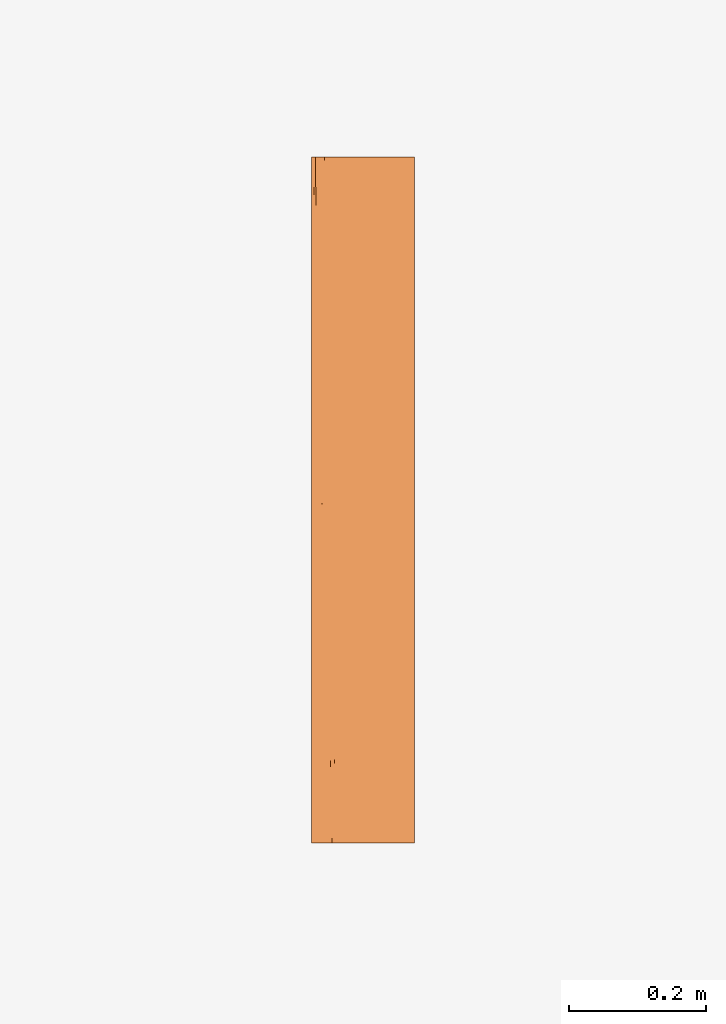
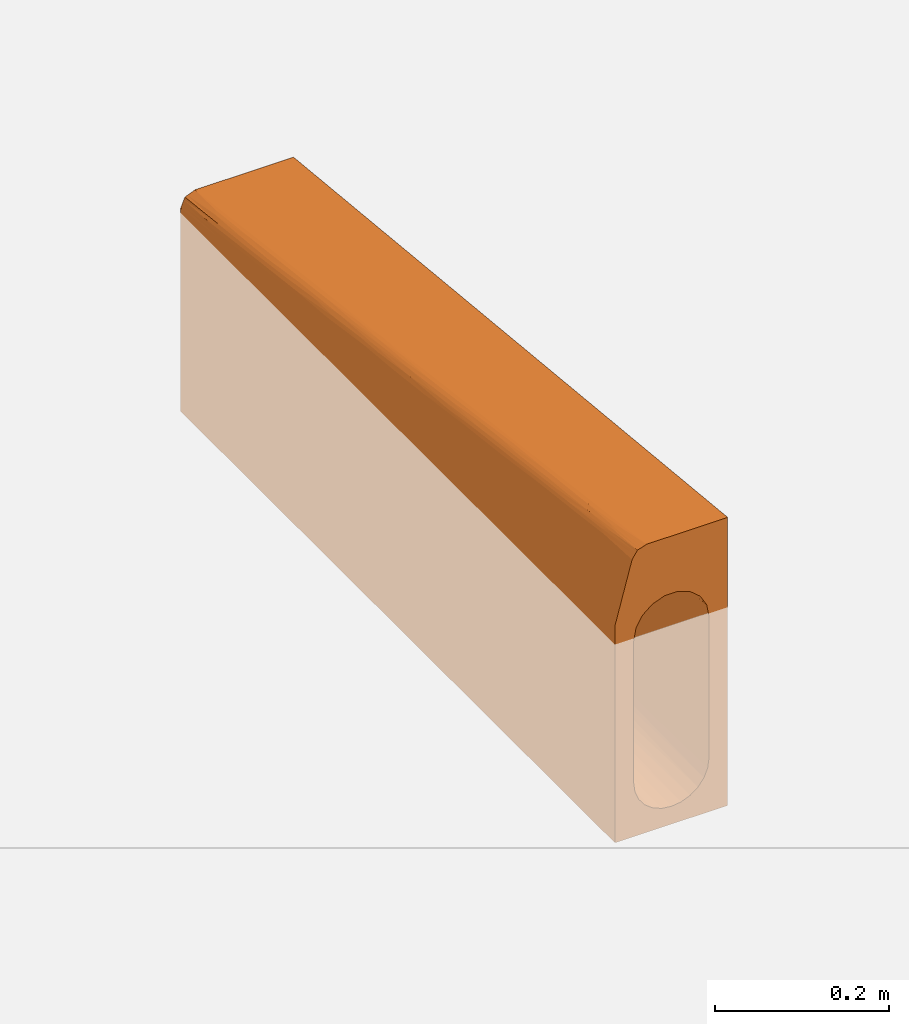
# One storey, part 2 of 2: 1 proxy.
"""IFC2X3 building model written with IfcOpenShell, lengths in millimetres."""

from ifc_helpers import new_model, entity, si_unit, converted_unit, direction, frame, origin, place, context, subcontext, project, spatial, faceted_brep, source, transform, mapped, material, element, save


model = new_model("IFC2X3")

# Units and contexts
model_context = context("Model", 3, precision=1e-06, world=origin(), true_north=direction((2.0, 6.12303176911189e-17, 1.0)))
context_of_model = context(None, 3, precision=1e-06, world=origin(), true_north=direction((2.0, 6.12303176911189e-17, 1.0)))
body_context = subcontext(model_context, "Body", "Model", "MODEL_VIEW")
ifc_project = project(units=[si_unit("LENGTHUNIT", "METRE", prefix="MILLI"), si_unit("AREAUNIT", "SQUARE_METRE", prefix="MILLI"), si_unit("VOLUMEUNIT", "CUBIC_METRE", prefix="MILLI"), converted_unit("PLANEANGLEUNIT", "DEGREE", entity("IfcRatioMeasure", 0.0174532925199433), si_unit("PLANEANGLEUNIT", "RADIAN"), dimensions=[0, 0, 0, 0, 0, 0, 0]), si_unit("TIMEUNIT", "SECOND")], contexts=[model_context, context_of_model])

# Site, building, storey
site_placement = place(None, origin())
site = spatial("IfcSite", under=ifc_project, at=site_placement, Name="Default", CompositionType="ELEMENT")
building_placement = place(site_placement, origin())
building = spatial("IfcBuilding", under=site, at=building_placement, CompositionType="ELEMENT")
storey_placement = place(building_placement, origin())
storey = spatial("IfcBuildingStorey", under=building, at=storey_placement, Name="Level 1", CompositionType="ELEMENT", Elevation=0.0)

# Proxy
ifc_material = material(Name="ACO Polymer Concrete.")
shared_shape = source(origin(), body_context, "Body", "Brep", [
    faceted_brep([(-75.0, 1000.0, 6.0), (-73.6087572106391, 1000.0, 9.3587572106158), (-66.0762716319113, 1000.0, 20.826271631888), (-62.7175144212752, 1000.0, 22.2175144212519), (-56.0, 1000.0, 25.0), (-25.0026002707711, 1000.0, -61.7002311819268), (-38.2973704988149, 1000.0, -72.8548384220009), (-46.985202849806, 1000.0, -87.9005639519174), (-50.0, 1000.0, -105.0), (-42.6412866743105, 1000.0, -80.3777011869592), (-8.67369085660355, 1000.0, -55.7580759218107), (-16.8381455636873, 1000.0, -58.7291535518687), (-75.0, 1000.0, -280.0), (-50.0, 1000.0, -205.0), (-48.2962913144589, 1000.0, -217.940952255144), (-43.3012701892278, 1000.0, -230.0), (-35.3553390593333, 1000.0, -240.355339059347), (-25.0, 1000.0, -248.301270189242), (-12.9409522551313, 1000.0, -253.296291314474), (0.0, 1000.0, -255.0), (8.68546404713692, 1000.0, -55.7601511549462), (75.0, 1000.0, 25.0), (25.0056312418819, 1000.0, -61.7019814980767), (16.8455476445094, 1000.0, -58.7310663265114), (46.9862597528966, 1000.0, -87.9034683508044), (42.6488827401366, 1000.0, -80.3875774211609), (38.3115057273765, 1000.0, -72.8716864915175), (31.6585684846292, 1000.0, -67.2868339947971), (50.0, 1000.0, -105.0), (75.0, 1000.0, -280.0), (50.0, 1000.0, -205.0), (25.0, 1000.0, -248.301270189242), (35.355339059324, 1000.0, -240.355339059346), (12.940952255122, 1000.0, -253.296291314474), (48.2962913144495, 1000.0, -217.940952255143), (43.3012701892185, 1000.0, -230.0), (-75.0, 0.0, -280.0), (-48.296291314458, 0.0, -217.940952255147), (-50.0, 0.0, -205.0), (-75.0, 0.0, 25.0), (-43.3012701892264, 0.0, -230.0), (-12.9409522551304, 0.0, -253.296291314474), (-25.0, 0.0, -248.301270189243), (-35.3553390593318, 0.0, -240.355339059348), (0.0, 0.0, -255.0), (75.0, 0.0, -280.0), (-50.0, 0.0, -5.0), (-46.9852028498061, 0.0, 12.099436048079), (-52.177057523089, 0.0, 110.176380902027), (-25.0026002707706, 0.0, 38.2997688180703), (-16.8381455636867, 0.0, 41.2708464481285), (-42.6412866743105, 0.0, 19.6222988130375), (-38.2973704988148, 0.0, 27.1451615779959), (-8.67369085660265, 0.0, 44.2419240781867), (-32.8585409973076, 0.0, 125.0), (-35.9023481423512, 0.0, 123.966766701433), (12.9409522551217, 0.0, -253.296291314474), (25.0, 0.0, -248.301270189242), (35.3553390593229, 0.0, -240.355339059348), (43.3012701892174, 0.0, -230.0), (48.2962913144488, 0.0, -217.940952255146), (50.0, 0.0, -205.0), (75.0, 0.0, 125.0), (25.0056312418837, 0.0, 38.2980185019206), (31.6585684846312, 0.0, 32.7131660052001), (38.3115057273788, 0.0, 27.1283135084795), (8.68546404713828, 0.0, 44.2398488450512), (16.845547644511, 0.0, 41.2689336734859), (50.0, 0.0, -5.0), (46.9862597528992, 0.0, 12.0965316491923), (-54.070706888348, 916.6304461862, 33.3369553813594), (-52.1414139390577, 833.260899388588, 41.6739100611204), (46.1939766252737, 500.0, -224.134171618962), (6.52630960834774, 707.441691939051, -254.572243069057), (19.1341716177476, 500.0, -251.193976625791), (39.6676670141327, 358.503175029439, -235.438071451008), (39.6676670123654, 707.441691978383, -235.438071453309), (30.4380714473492, 641.496825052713, -244.667667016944), (30.4380714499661, 292.558308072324, -244.667667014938), (-39.6676670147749, 292.558308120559, -235.438071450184), (-30.4380714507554, 358.503174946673, -244.66766701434), (-39.667667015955, 641.496825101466, -235.438071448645), (-30.4380714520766, 707.441691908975, -244.667667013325), (6.52630961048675, 358.503174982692, -254.572243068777), (49.0392640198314, 322.335450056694, -214.75451610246), (50.0, 500.0, -205.0), (49.0392640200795, 640.187474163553, -214.754516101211), (-6.52630961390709, 641.496825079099, -254.572243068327), (-6.52630961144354, 292.558308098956, -254.572243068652), (-19.1341716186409, 500.0, -251.193976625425), (-46.1939766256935, 500.0, -224.134171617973), (-50.0, 500.0, -205.0), (-49.0392640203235, 359.812526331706, -214.754516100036), (-49.0392640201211, 677.664550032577, -214.754516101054), (-50.0, 749.999986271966, -79.9999986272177), (50.0, 249.999972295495, -29.999997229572), (50.0, 499.99994459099, -54.9999944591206), (-47.5960874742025, 198.943605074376, -9.57729626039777), (-44.6482812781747, 500.0, -32.4937568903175), (-48.3594391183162, 395.404910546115, -31.8375524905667), (-48.5059108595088, 624.999980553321, -55.368361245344), (-12.9352651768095, 153.978186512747, 27.8999961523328), (-17.0982603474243, 692.043624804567, -27.2187317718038), (-7.71807748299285, 618.469213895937, -17.4461999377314), (-21.1829687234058, 500.0, -9.70892101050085), (-10.8471087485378, 454.99902622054, -1.69067980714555), (-32.1376404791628, 769.302264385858, -43.626544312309), (-32.1376410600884, 500.0, -16.6963183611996), (-43.2998017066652, 692.049465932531, -49.2024032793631), (-43.2998017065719, 307.950534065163, -10.7925100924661), (-32.1376404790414, 230.697735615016, 10.2339085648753), (-25.6379083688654, 311.887841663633, 6.73787019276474), (-22.9925501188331, 168.907850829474, 22.5090194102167), (-39.1970564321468, 436.695033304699, -17.6277448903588), (-40.954595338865, 153.97526706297, 8.28558889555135), (-48.6581025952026, 823.905685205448, -75.8845243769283), (-25.1484004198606, 720.690257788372, -33.8537743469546), (-21.1309491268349, 846.021814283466, -44.2868088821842), (0.0059751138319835, 769.312896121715, -31.9312899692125), (25.855748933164, 618.774584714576, -24.0816613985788), (23.0536231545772, 455.36740726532, -6.16861636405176), (17.1055165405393, 692.041102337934, -27.221120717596), (39.5125115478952, 171.585404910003, 8.48067345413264), (32.1474039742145, 230.656744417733, 10.2298137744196), (32.1474080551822, 500.0, -16.7045152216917), (43.3060731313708, 307.990567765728, -10.8073775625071), (-9.2666561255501, 764.98164979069, -32.3643773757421), (48.6582519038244, 176.10114246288, -11.1047015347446), (44.6504197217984, 500.0, -32.4979996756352), (43.3060731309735, 692.009432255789, -49.2092640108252), (48.3604253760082, 604.490028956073, -52.7498195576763), (45.1907478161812, 151.837427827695, 1.21243238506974), (40.9644990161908, 846.004724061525, -60.9315027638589), (32.1474039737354, 769.343255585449, -43.6388373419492), (12.9447683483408, 846.020554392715, -41.3067868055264), (24.4812053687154, 765.347228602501, -37.9380419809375), (47.600718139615, 801.038396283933, -69.8011721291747), (-45.1901008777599, 848.139835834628, -68.4164420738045), (17.105516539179, 307.958897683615, 11.1870997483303), (0.00597511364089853, 230.687103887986, 21.931289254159), (11.8795963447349, 479.213206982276, -4.35306778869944), (25.1576882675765, 279.317153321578, 10.2781298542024), (21.1360345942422, 153.979439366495, 24.9150568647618), (10.9260607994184, 168.932437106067, 26.8983661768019), (48.507627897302, 374.999950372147, -30.3752255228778), (39.2024886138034, 563.368398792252, -30.3019419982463), (-50.0, 499.999972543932, -54.9999972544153), (-8.50621820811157, 279.320382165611, 16.3390917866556), (6.96845611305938, 634.656449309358, -18.9536199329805), (0.00597317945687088, 500.0, -5.00000035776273), (-50.0, 249.999986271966, -29.9999986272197), (50.0, 749.999972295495, -79.9999972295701), (-39.5134519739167, 828.54853826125, -57.216852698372), (-17.0982603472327, 307.956375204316, 11.1899931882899), (-54.0797960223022, 83.3695524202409, 101.491242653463), (-55.9775747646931, 166.521790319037, 92.82874344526), (-55.3745391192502, 200.963211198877, 93.4673356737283), (-53.8074668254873, 124.945694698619, 100.807922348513), (-59.6159653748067, 502.334485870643, 67.4613069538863), (-59.0913978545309, 416.413150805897, 74.0126067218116), (-56.6062012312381, 435.465680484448, 75.8166576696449), (-58.9480199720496, 661.873151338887, 55.5051197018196), (-60.4506030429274, 749.891351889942, 47.0413908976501), (-62.6476179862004, 714.335508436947, 48.2371581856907), (-52.0487016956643, 583.260905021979, 65.8135660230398), (-51.7266916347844, 523.365050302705, 71.4432000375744), (-48.3483191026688, 539.530671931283, 70.8117093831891), (-50.2121208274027, 749.891345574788, 50.0108654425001), (-56.5353317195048, 791.57612569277, 45.0757493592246), (-54.6991145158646, 696.544924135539, 54.4719913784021), (-48.4812166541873, 309.803842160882, 92.0966395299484), (-49.3166338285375, 263.822978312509, 95.6600480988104), (-42.8531199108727, 215.034366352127, 102.845472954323), (-73.0972615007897, 916.630447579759, 14.6851382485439), (-72.6928041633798, 931.730398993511, 18.1043070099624), (-46.5934335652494, 377.788999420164, 86.5699903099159), (-49.0102555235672, 465.19971235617, 77.716157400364), (-52.3634862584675, 416.739115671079, 80.6361017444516), (-61.7344904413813, 458.097925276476, 66.2175061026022), (-63.2498313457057, 529.896398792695, 59.3134056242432), (-63.5835690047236, 499.782685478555, 58.1108294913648), (-70.0735086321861, 887.008599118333, 26.4361743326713), (-66.7768917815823, 847.644284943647, 33.7805767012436), (-68.1359406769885, 923.310726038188, 26.626856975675), (-42.3904453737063, 65.3163775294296, 116.77949445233), (-38.017977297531, 53.9368333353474, 119.218317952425), (-41.5984359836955, 125.054333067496, 111.611641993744), (-49.7453672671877, 365.813346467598, 86.5038680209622), (-50.7253331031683, 75.3576939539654, 109.206972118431), (-52.3910575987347, 63.4737235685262, 107.084750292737), (-57.0840045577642, 354.210414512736, 81.1691699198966), (-59.2938530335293, 363.292634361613, 76.5409936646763), (-36.7171272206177, 166.739107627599, 108.326089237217), (-34.7878341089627, 83.3695538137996, 116.663044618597), (-64.9742295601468, 778.390449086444, 40.9488364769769), (-63.5132633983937, 940.219818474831, 28.7699949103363), (-59.1171612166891, 946.654501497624, 29.8301732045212), (-71.1298821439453, 860.134749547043, 25.0208178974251), (-69.6158094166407, 791.576125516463, 31.713503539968), (-68.6117805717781, 818.449975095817, 33.1019878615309), (-59.7780920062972, 333.043580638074, 75.4811059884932), (-57.8120059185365, 291.413153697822, 83.4205152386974), (-67.1469578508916, 749.891351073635, 39.7749247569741), (-68.2523213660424, 732.843495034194, 37.702336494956), (-54.9208819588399, 505.997649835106, 71.3940029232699), (-52.2522429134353, 151.898755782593, 101.803634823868), (-54.1653232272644, 347.751067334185, 85.0203113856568), (-51.9492199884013, 251.96359120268, 94.6413575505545), (-53.663280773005, 215.864003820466, 95.4376680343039), (-55.3778347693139, 279.784369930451, 88.6568451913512), (-48.1013364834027, 206.963846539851, 101.296778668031), (-50.484754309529, 180.778946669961, 101.626102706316), (-47.5160603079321, 155.757918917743, 106.040999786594), (-64.1955162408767, 597.402862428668, 53.981963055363), (-63.4926909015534, 665.23279646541, 50.9482894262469), (-66.4723936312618, 678.664325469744, 44.8054828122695), (-70.8262716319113, 1000.0, 16.076271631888), (-71.4706229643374, 946.312084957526, 20.4305661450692), (-62.9127730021, 815.061588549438, 39.8694191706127), (-58.1403012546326, 873.628585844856, 36.9520057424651), (-63.6283800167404, 880.283492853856, 33.8845509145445), (-48.6054135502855, 0.0, 115.521723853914), (-46.7714144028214, 104.044140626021, 110.91575485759), (-44.9536482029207, 53.0665982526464, 116.465813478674), (-43.5875304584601, 291.793440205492, 95.4123177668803), (-38.646420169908, 250.108654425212, 99.9891345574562), (-40.575713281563, 333.478208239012, 91.6521791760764), (-42.5024920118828, 416.739109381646, 83.3260890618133), (-44.4292705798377, 500.000003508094, 74.9999996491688), (-46.3560491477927, 583.260897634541, 66.6739102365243), (-55.4875925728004, 566.933525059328, 65.7976392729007), (-59.2660700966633, 583.260907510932, 61.7057243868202), (-61.5555419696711, 564.446058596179, 60.548819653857), (-61.6808305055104, 416.413133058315, 66.795967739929), (-62.0107786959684, 613.422512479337, 56.5141769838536), (-65.4863075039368, 583.152237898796, 49.4256912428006), (-50.7261305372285, 0.0, 112.347846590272), (-45.0337695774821, 0.0, 120.867066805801), (-47.6803454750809, 56.9987456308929, 114.018514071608), (-46.8195915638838, 0.0, 118.194395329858), (-41.9899624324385, 0.0, 121.900300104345), (-57.8778333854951, 249.782685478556, 84.1549247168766), (-67.3890460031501, 666.521790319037, 40.7405529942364), (-50.7679839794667, 630.943098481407, 61.61886600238), (-54.9130480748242, 640.062182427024, 59.5767053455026), (-48.2828277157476, 666.521791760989, 58.3478208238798), (-59.3587572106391, 1000.0, 23.6087572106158), (-69.4350288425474, 1000.0, 19.4350288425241), (-71.1945230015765, 833.260895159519, 23.3702764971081), (-69.2917845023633, 749.891342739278, 32.0554147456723), (-72.2175144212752, 1000.0, 12.7175144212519), (-38.9461552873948, 0.0, 122.933533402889)], [[[0, 1, 2, 3]], [[0, 4, 5, 6]], [[7, 8, 0]], [[0, 6, 9, 7]], [[4, 10, 11, 5]], [[12, 0, 8, 13]], [[12, 13, 14]], [[12, 14, 15]], [[15, 16, 12]], [[17, 18, 12]], [[16, 17, 12]], [[12, 18, 19]], [[20, 10, 4, 21]], [[21, 22, 23, 20]], [[21, 24, 25, 26]], [[21, 26, 27, 22]], [[28, 24, 21]], [[28, 21, 29, 30]], [[31, 32, 29]], [[19, 33, 29, 12]], [[31, 29, 33]], [[34, 30, 29]], [[35, 29, 32]], [[29, 35, 34]], [[36, 37, 38, 39]], [[37, 36, 40]], [[41, 42, 36]], [[43, 40, 36]], [[42, 43, 36]], [[44, 41, 36, 45]], [[46, 47, 39]], [[48, 39, 49, 50]], [[39, 47, 51, 52]], [[46, 39, 38]], [[48, 53, 54, 55]], [[49, 39, 52]], [[56, 44, 45]], [[57, 56, 45]], [[58, 45, 59]], [[45, 58, 57]], [[60, 59, 45]], [[45, 61, 60]], [[62, 63, 64, 65]], [[62, 54, 66, 67]], [[68, 61, 45, 62]], [[69, 62, 65]], [[62, 69, 68]], [[66, 54, 53]], [[21, 62, 45, 29]], [[29, 45, 36, 12]], [[0, 12, 36, 39]], [[21, 4, 70, 71]], [[62, 21, 54]], [[59, 60, 72]], [[33, 73, 74]], [[75, 76, 77, 78]], [[72, 75, 59]], [[56, 57, 74]], [[79, 43, 80]], [[16, 81, 82]], [[77, 74, 78]], [[35, 76, 72]], [[56, 74, 83]], [[84, 72, 60]], [[85, 30, 86, 84]], [[61, 84, 60]], [[75, 58, 59]], [[32, 31, 77]], [[72, 34, 35]], [[19, 18, 87]], [[76, 75, 72]], [[74, 77, 31]], [[80, 43, 42]], [[74, 31, 33]], [[83, 44, 56]], [[73, 83, 74]], [[83, 73, 87, 88]], [[42, 41, 89]], [[88, 44, 83]], [[19, 87, 73]], [[89, 80, 42]], [[37, 40, 90]], [[79, 40, 43]], [[78, 58, 75]], [[81, 90, 79]], [[16, 82, 17]], [[91, 38, 92, 93]], [[87, 18, 89]], [[89, 18, 17]], [[78, 57, 58]], [[16, 15, 81]], [[82, 80, 89]], [[19, 73, 33]], [[81, 15, 90]], [[14, 90, 15]], [[88, 41, 44]], [[14, 93, 90]], [[32, 76, 35]], [[32, 77, 76]], [[88, 87, 89]], [[14, 13, 93]], [[57, 78, 74]], [[17, 82, 89]], [[80, 82, 81, 79]], [[41, 88, 89]], [[40, 79, 90]], [[72, 84, 86]], [[85, 84, 61]], [[86, 34, 72]], [[34, 86, 30]], [[90, 93, 92]], [[91, 93, 13]], [[92, 37, 90]], [[37, 92, 38]], [[38, 91, 8, 94]], [[61, 68, 95, 96]], [[28, 30, 85, 61]], [[51, 47, 97]], [[98, 99, 100]], [[101, 53, 50]], [[102, 103, 104]], [[105, 104, 103]], [[106, 107, 108]], [[109, 97, 99]], [[110, 111, 112]], [[108, 113, 98]], [[109, 110, 114]], [[52, 110, 49]], [[115, 94, 8]], [[112, 101, 50]], [[104, 111, 107]], [[116, 106, 117]], [[115, 100, 94]], [[10, 20, 118]], [[119, 120, 121]], [[122, 64, 123]], [[98, 109, 99]], [[124, 125, 123]], [[117, 11, 126]], [[127, 95, 68]], [[128, 129, 130]], [[131, 127, 69]], [[26, 132, 133]], [[106, 6, 5]], [[20, 134, 118]], [[23, 135, 134]], [[25, 24, 136]], [[132, 129, 133]], [[137, 115, 7]], [[138, 139, 140]], [[53, 139, 66]], [[120, 141, 138]], [[67, 142, 63]], [[120, 138, 140]], [[143, 142, 67]], [[127, 144, 95]], [[129, 136, 130]], [[125, 145, 128]], [[128, 130, 144]], [[49, 112, 50]], [[94, 100, 146]], [[46, 97, 47]], [[95, 144, 96]], [[28, 136, 24]], [[113, 107, 110]], [[101, 147, 139]], [[116, 104, 107]], [[102, 126, 103]], [[148, 140, 149]], [[66, 143, 67]], [[147, 105, 149]], [[121, 135, 119]], [[145, 124, 133]], [[131, 65, 122]], [[138, 141, 142]], [[99, 146, 100]], [[100, 115, 137]], [[99, 150, 146]], [[97, 46, 150]], [[130, 96, 144]], [[144, 127, 131]], [[130, 151, 96]], [[136, 28, 151]], [[99, 97, 150]], [[97, 109, 114]], [[97, 114, 51]], [[114, 110, 52]], [[114, 52, 51]], [[130, 136, 151]], [[132, 26, 25]], [[136, 132, 25]], [[133, 22, 27, 26]], [[129, 132, 136]], [[108, 100, 137]], [[7, 115, 8]], [[109, 98, 113]], [[108, 98, 100]], [[109, 113, 110]], [[107, 113, 108]], [[125, 144, 131]], [[69, 127, 68]], [[129, 128, 145]], [[125, 128, 144]], [[129, 145, 133]], [[124, 145, 125]], [[108, 137, 152]], [[137, 9, 152]], [[152, 106, 108]], [[152, 6, 106]], [[125, 131, 122]], [[131, 69, 65]], [[122, 123, 125]], [[64, 63, 123]], [[6, 152, 9]], [[137, 7, 9]], [[53, 101, 139]], [[112, 153, 101]], [[153, 112, 111]], [[112, 49, 110]], [[153, 111, 104]], [[111, 110, 107]], [[153, 104, 105]], [[116, 117, 102]], [[101, 153, 147]], [[103, 149, 105]], [[149, 103, 148]], [[118, 103, 126]], [[126, 10, 118]], [[11, 10, 126]], [[5, 11, 117]], [[5, 117, 106]], [[102, 117, 126]], [[139, 147, 149]], [[147, 153, 105]], [[106, 116, 107]], [[116, 102, 104]], [[142, 141, 123]], [[143, 138, 142]], [[143, 139, 138]], [[143, 66, 139]], [[141, 124, 123]], [[124, 141, 120]], [[124, 120, 119]], [[139, 149, 140]], [[140, 121, 120]], [[103, 118, 148]], [[119, 133, 124]], [[133, 119, 135]], [[148, 121, 140]], [[134, 121, 148]], [[133, 135, 22]], [[148, 118, 134]], [[20, 23, 134]], [[23, 22, 135]], [[121, 134, 135]], [[142, 123, 63]], [[64, 122, 65]], [[39, 48, 154, 155]], [[156, 155, 157]], [[158, 159, 160]], [[161, 162, 163]], [[164, 165, 166]], [[167, 168, 169]], [[170, 171, 172]], [[173, 174, 1]], [[175, 176, 177]], [[178, 179, 180]], [[181, 182, 183]], [[184, 185, 186]], [[175, 177, 187]], [[188, 157, 189]], [[190, 159, 191]], [[192, 186, 193]], [[194, 163, 162]], [[195, 196, 3]], [[197, 198, 199]], [[191, 200, 201]], [[178, 191, 159]], [[202, 198, 203]], [[204, 158, 160]], [[157, 188, 205]], [[206, 207, 171]], [[208, 209, 156]], [[201, 156, 209]], [[210, 211, 212]], [[213, 214, 215]], [[199, 194, 182]], [[181, 199, 182]], [[183, 216, 217]], [[162, 169, 168]], [[218, 219, 220]], [[221, 188, 189]], [[186, 192, 172]], [[184, 222, 223]], [[210, 186, 172]], [[54, 193, 185]], [[212, 186, 210]], [[186, 222, 184]], [[224, 225, 226]], [[175, 170, 224]], [[225, 224, 172]], [[170, 187, 206]], [[172, 192, 225]], [[224, 226, 175]], [[172, 224, 170]], [[176, 227, 228]], [[227, 176, 175]], [[166, 229, 164]], [[204, 177, 176]], [[161, 169, 162]], [[204, 230, 231]], [[165, 230, 204]], [[204, 231, 158]], [[232, 158, 231]], [[233, 178, 180]], [[232, 234, 213]], [[213, 235, 179]], [[175, 226, 227]], [[206, 177, 160]], [[207, 209, 208]], [[189, 48, 236, 221]], [[237, 238, 239]], [[155, 154, 157]], [[156, 157, 205]], [[237, 240, 223]], [[205, 188, 238]], [[208, 156, 205]], [[189, 157, 154]], [[241, 201, 200]], [[241, 155, 156]], [[156, 201, 241]], [[160, 190, 206]], [[190, 201, 209]], [[201, 190, 191]], [[178, 233, 191]], [[233, 200, 191]], [[209, 206, 190]], [[48, 189, 154]], [[159, 158, 178]], [[158, 232, 179]], [[158, 179, 178]], [[205, 211, 208]], [[235, 213, 242]], [[235, 180, 179]], [[208, 211, 207]], [[171, 207, 210]], [[206, 209, 207]], [[222, 211, 205]], [[207, 211, 210]], [[234, 161, 214]], [[215, 214, 202]], [[230, 161, 231]], [[243, 169, 244]], [[244, 169, 161]], [[169, 245, 167]], [[167, 71, 168]], [[219, 168, 71]], [[168, 219, 218]], [[196, 4, 246, 3]], [[195, 183, 220]], [[219, 71, 70]], [[2, 247, 183]], [[198, 248, 249]], [[213, 215, 242]], [[203, 198, 249]], [[215, 203, 242]], [[199, 198, 202]], [[194, 199, 202]], [[197, 199, 181]], [[163, 202, 214]], [[182, 218, 220]], [[218, 194, 162]], [[183, 182, 220]], [[195, 3, 2]], [[250, 174, 217]], [[174, 197, 181]], [[173, 197, 174]], [[198, 197, 248]], [[173, 248, 197]], [[217, 174, 181]], [[1, 0, 173]], [[70, 196, 219]], [[183, 195, 2]], [[219, 195, 220]], [[219, 196, 195]], [[4, 196, 70]], [[202, 163, 194]], [[161, 163, 214]], [[194, 218, 182]], [[168, 218, 162]], [[242, 203, 249]], [[202, 203, 215]], [[181, 183, 217]], [[172, 171, 210]], [[216, 183, 247]], [[216, 250, 217]], [[206, 171, 170]], [[211, 222, 212]], [[186, 212, 222]], [[251, 184, 240]], [[185, 184, 251]], [[222, 238, 223]], [[185, 251, 55, 54]], [[186, 185, 193]], [[206, 187, 177]], [[170, 175, 187]], [[229, 245, 243]], [[165, 204, 176]], [[230, 164, 244]], [[166, 176, 228]], [[164, 230, 165]], [[176, 166, 165]], [[229, 166, 228]], [[160, 159, 190]], [[204, 160, 177]], [[234, 232, 231]], [[179, 232, 213]], [[161, 234, 231]], [[213, 234, 214]], [[188, 221, 239]], [[205, 238, 222]], [[188, 239, 238]], [[237, 223, 238]], [[240, 184, 223]], [[230, 244, 161]], [[243, 244, 164]], [[229, 243, 164]], [[169, 243, 245]], [[174, 250, 1]], [[0, 3, 246, 4]], [[2, 1, 250, 216]], [[2, 216, 247]], [[48, 55, 251, 240]], [[240, 237, 239, 221]], [[240, 221, 236, 48]], [[48, 50, 53]], [[62, 67, 63]], [[21, 71, 167, 245]], [[21, 245, 229, 228]], [[21, 228, 227, 226]], [[21, 226, 225, 192]], [[21, 192, 193, 54]], [[8, 91, 13]], [[38, 94, 146, 150]], [[38, 150, 46]], [[61, 96, 151, 28]], [[39, 155, 241, 200]], [[39, 200, 233, 180]], [[39, 180, 235, 242]], [[39, 242, 249, 248]], [[39, 248, 173, 0]]]),
])
proxy_placement = place(storey_placement, frame((-14541.5994818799, -705.326112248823, 0.0)))
element("IfcBuildingElementProxy", 1, at=proxy_placement, inside=storey, material=ifc_material, Name="Civil-Drainage-Channel-ACO-KerbDrain-HB405:4235 - RH drop kerb - 1000mm LG:4235 - RH drop kerb - 1000mm LG", ObjectType="4235 - RH drop kerb - 1000mm LG", CompositionType="ELEMENT", context=body_context, shape_type="MappedRepresentation", body=[
    mapped(shared_shape, transform((0.0, 0.0, 0.0), scale=1.0)),
])

save(model, "model.ifc")
